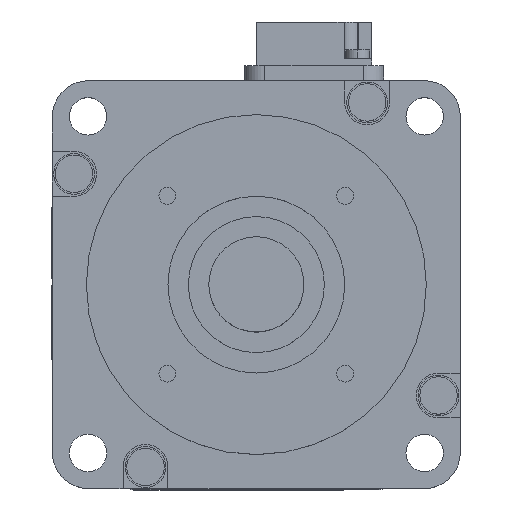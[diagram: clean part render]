
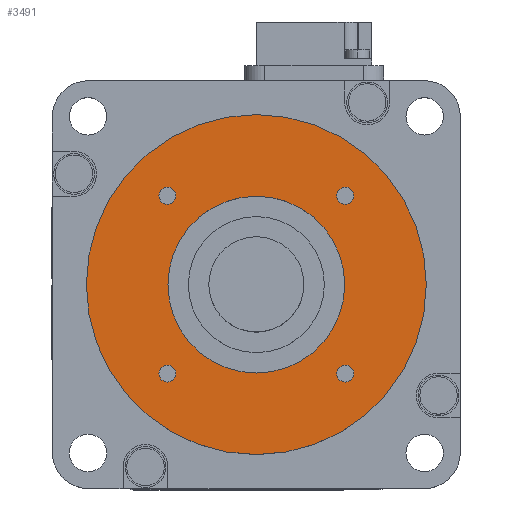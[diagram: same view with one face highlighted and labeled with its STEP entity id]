
A CAD part, top view. The second image highlights one B-rep face of the part: STEP entity #3491.
In plain terms, the highlighted planar face has unit normal (0, 0, 1).
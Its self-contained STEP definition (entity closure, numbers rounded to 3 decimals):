
#1833 = EDGE_CURVE ( 'NONE', #1842, #1834, #6844, .T. ) ;
#1834 = VERTEX_POINT ( 'NONE', #6839 ) ;
#1842 = VERTEX_POINT ( 'NONE', #6892 ) ;
#1859 = VERTEX_POINT ( 'NONE', #6915 ) ;
#1888 = VERTEX_POINT ( 'NONE', #6989 ) ;
#1899 = EDGE_CURVE ( 'NONE', #1859, #1888, #6969, .T. ) ;
#1933 = VERTEX_POINT ( 'NONE', #7084 ) ;
#1937 = EDGE_CURVE ( 'NONE', #1933, #1938, #7071, .T. ) ;
#1938 = VERTEX_POINT ( 'NONE', #7067 ) ;
#1974 = VERTEX_POINT ( 'NONE', #7139 ) ;
#1983 = EDGE_CURVE ( 'NONE', #1974, #1984, #7127, .T. ) ;
#1984 = VERTEX_POINT ( 'NONE', #7122 ) ;
#2267 = EDGE_CURVE ( 'NONE', #2268, #2269, #7752, .T. ) ;
#2268 = VERTEX_POINT ( 'NONE', #7748 ) ;
#2269 = VERTEX_POINT ( 'NONE', #7747 ) ;
#2284 = EDGE_CURVE ( 'NONE', #2285, #2286, #7781, .T. ) ;
#2285 = VERTEX_POINT ( 'NONE', #7777 ) ;
#2286 = VERTEX_POINT ( 'NONE', #7776 ) ;
#3421 = EDGE_LOOP ( 'NONE', ( #3422, #3424 ) ) ;
#3422 = ORIENTED_EDGE ( 'NONE', *, *, #3423, .F. ) ;
#3423 = EDGE_CURVE ( 'NONE', #1834, #1842, #9815, .T. ) ;
#3424 = ORIENTED_EDGE ( 'NONE', *, *, #1833, .F. ) ;
#3425 = EDGE_LOOP ( 'NONE', ( #3426, #3477 ) ) ;
#3426 = ORIENTED_EDGE ( 'NONE', *, *, #3427, .F. ) ;
#3427 = EDGE_CURVE ( 'NONE', #1888, #1859, #9810, .T. ) ;
#3464 = EDGE_CURVE ( 'NONE', #2269, #2268, #9876, .T. ) ;
#3477 = ORIENTED_EDGE ( 'NONE', *, *, #1899, .F. ) ;
#3478 = EDGE_LOOP ( 'NONE', ( #3479, #3481 ) ) ;
#3479 = ORIENTED_EDGE ( 'NONE', *, *, #3480, .F. ) ;
#3480 = EDGE_CURVE ( 'NONE', #1938, #1933, #9922, .T. ) ;
#3481 = ORIENTED_EDGE ( 'NONE', *, *, #1937, .F. ) ;
#3482 = EDGE_LOOP ( 'NONE', ( #3483, #3485 ) ) ;
#3483 = ORIENTED_EDGE ( 'NONE', *, *, #3484, .T. ) ;
#3484 = EDGE_CURVE ( 'NONE', #2286, #2285, #9917, .T. ) ;
#3485 = ORIENTED_EDGE ( 'NONE', *, *, #2284, .T. ) ;
#3486 = EDGE_LOOP ( 'NONE', ( #3487, #3488 ) ) ;
#3487 = ORIENTED_EDGE ( 'NONE', *, *, #2267, .F. ) ;
#3488 = ORIENTED_EDGE ( 'NONE', *, *, #3464, .F. ) ;
#3491 = ADVANCED_FACE ( 'NONE', ( #9912, #9911, #9910, #9909, #9908, #9907 ), #9906, .T. ) ;
#3492 = EDGE_LOOP ( 'NONE', ( #3493, #3495 ) ) ;
#3493 = ORIENTED_EDGE ( 'NONE', *, *, #3494, .F. ) ;
#3494 = EDGE_CURVE ( 'NONE', #1984, #1974, #9900, .T. ) ;
#3495 = ORIENTED_EDGE ( 'NONE', *, *, #1983, .F. ) ;
#6839 = CARTESIAN_POINT ( 'NONE',  ( -11.831, -13.081, 3. ) ) ;
#6840 = DIRECTION ( 'NONE',  ( -1., 0., 0. ) ) ;
#6841 = DIRECTION ( 'NONE',  ( 0., 0., 1. ) ) ;
#6842 = CARTESIAN_POINT ( 'NONE',  ( -13.081, -13.081, 3. ) ) ;
#6843 = AXIS2_PLACEMENT_3D ( 'NONE', #6842, #6841, #6840 ) ;
#6844 = CIRCLE ( 'NONE', #6843, 1.25 ) ;
#6892 = CARTESIAN_POINT ( 'NONE',  ( -14.331, -13.081, 3. ) ) ;
#6915 = CARTESIAN_POINT ( 'NONE',  ( -14.331, 13.081, 3. ) ) ;
#6965 = DIRECTION ( 'NONE',  ( 0., 1., 0. ) ) ;
#6966 = DIRECTION ( 'NONE',  ( 0., 0., 1. ) ) ;
#6967 = CARTESIAN_POINT ( 'NONE',  ( -13.081, 13.081, 3. ) ) ;
#6968 = AXIS2_PLACEMENT_3D ( 'NONE', #6967, #6966, #6965 ) ;
#6969 = CIRCLE ( 'NONE', #6968, 1.25 ) ;
#6989 = CARTESIAN_POINT ( 'NONE',  ( -11.831, 13.081, 3. ) ) ;
#7067 = CARTESIAN_POINT ( 'NONE',  ( 14.331, 13.081, 3. ) ) ;
#7068 = DIRECTION ( 'NONE',  ( 1., 0., 0. ) ) ;
#7069 = DIRECTION ( 'NONE',  ( 0., 0., 1. ) ) ;
#7070 = AXIS2_PLACEMENT_3D ( 'NONE', #7077, #7069, #7068 ) ;
#7071 = CIRCLE ( 'NONE', #7070, 1.25 ) ;
#7077 = CARTESIAN_POINT ( 'NONE',  ( 13.081, 13.081, 3. ) ) ;
#7084 = CARTESIAN_POINT ( 'NONE',  ( 11.831, 13.081, 3. ) ) ;
#7122 = CARTESIAN_POINT ( 'NONE',  ( 14.331, -13.081, 3. ) ) ;
#7123 = DIRECTION ( 'NONE',  ( 0., -1., 0. ) ) ;
#7124 = DIRECTION ( 'NONE',  ( 0., 0., 1. ) ) ;
#7125 = CARTESIAN_POINT ( 'NONE',  ( 13.081, -13.081, 3. ) ) ;
#7126 = AXIS2_PLACEMENT_3D ( 'NONE', #7125, #7124, #7123 ) ;
#7127 = CIRCLE ( 'NONE', #7126, 1.25 ) ;
#7139 = CARTESIAN_POINT ( 'NONE',  ( 11.831, -13.081, 3. ) ) ;
#7747 = CARTESIAN_POINT ( 'NONE',  ( 25., 0., 3. ) ) ;
#7748 = CARTESIAN_POINT ( 'NONE',  ( -25., 0., 3. ) ) ;
#7749 = DIRECTION ( 'NONE',  ( -1., 0., 0. ) ) ;
#7750 = DIRECTION ( 'NONE',  ( 0., 0., -1. ) ) ;
#7751 = AXIS2_PLACEMENT_3D ( 'NONE', #7756, #7750, #7749 ) ;
#7752 = CIRCLE ( 'NONE', #7751, 25. ) ;
#7756 = CARTESIAN_POINT ( 'NONE',  ( 0., 0., 3. ) ) ;
#7776 = CARTESIAN_POINT ( 'NONE',  ( -13., 0., 3. ) ) ;
#7777 = CARTESIAN_POINT ( 'NONE',  ( 13., 0., 3. ) ) ;
#7778 = DIRECTION ( 'NONE',  ( -1., 0., 0. ) ) ;
#7779 = DIRECTION ( 'NONE',  ( 0., 0., -1. ) ) ;
#7780 = AXIS2_PLACEMENT_3D ( 'NONE', #7786, #7779, #7778 ) ;
#7781 = CIRCLE ( 'NONE', #7780, 13. ) ;
#7786 = CARTESIAN_POINT ( 'NONE',  ( 0., 0., 3. ) ) ;
#9384 = DIRECTION ( 'NONE',  ( 0., -1., 0. ) ) ;
#9806 = DIRECTION ( 'NONE',  ( 0., 1., 0. ) ) ;
#9807 = DIRECTION ( 'NONE',  ( 0., 0., 1. ) ) ;
#9808 = CARTESIAN_POINT ( 'NONE',  ( -13.081, 13.081, 3. ) ) ;
#9809 = AXIS2_PLACEMENT_3D ( 'NONE', #9808, #9807, #9806 ) ;
#9810 = CIRCLE ( 'NONE', #9809, 1.25 ) ;
#9811 = DIRECTION ( 'NONE',  ( -1., 0., 0. ) ) ;
#9812 = DIRECTION ( 'NONE',  ( 0., 0., 1. ) ) ;
#9813 = CARTESIAN_POINT ( 'NONE',  ( -13.081, -13.081, 3. ) ) ;
#9814 = AXIS2_PLACEMENT_3D ( 'NONE', #9813, #9812, #9811 ) ;
#9815 = CIRCLE ( 'NONE', #9814, 1.25 ) ;
#9872 = DIRECTION ( 'NONE',  ( -1., 0., 0. ) ) ;
#9873 = DIRECTION ( 'NONE',  ( 0., 0., -1. ) ) ;
#9874 = CARTESIAN_POINT ( 'NONE',  ( 0., 0., 3. ) ) ;
#9875 = AXIS2_PLACEMENT_3D ( 'NONE', #9874, #9873, #9872 ) ;
#9876 = CIRCLE ( 'NONE', #9875, 25. ) ;
#9897 = DIRECTION ( 'NONE',  ( 0., 0., 1. ) ) ;
#9898 = CARTESIAN_POINT ( 'NONE',  ( 13.081, -13.081, 3. ) ) ;
#9899 = AXIS2_PLACEMENT_3D ( 'NONE', #9898, #9897, #9384 ) ;
#9900 = CIRCLE ( 'NONE', #9899, 1.25 ) ;
#9902 = DIRECTION ( 'NONE',  ( 1., 0., 0. ) ) ;
#9903 = DIRECTION ( 'NONE',  ( 0., 0., 1. ) ) ;
#9904 = CARTESIAN_POINT ( 'NONE',  ( 0., 25., 3. ) ) ;
#9905 = AXIS2_PLACEMENT_3D ( 'NONE', #9904, #9903, #9902 ) ;
#9906 = PLANE ( 'NONE',  #9905 ) ;
#9907 = FACE_OUTER_BOUND ( 'NONE', #3486, .T. ) ;
#9908 = FACE_BOUND ( 'NONE', #3482, .T. ) ;
#9909 = FACE_BOUND ( 'NONE', #3478, .T. ) ;
#9910 = FACE_BOUND ( 'NONE', #3425, .T. ) ;
#9911 = FACE_BOUND ( 'NONE', #3421, .T. ) ;
#9912 = FACE_BOUND ( 'NONE', #3492, .T. ) ;
#9913 = DIRECTION ( 'NONE',  ( -1., 0., 0. ) ) ;
#9914 = DIRECTION ( 'NONE',  ( 0., 0., -1. ) ) ;
#9915 = CARTESIAN_POINT ( 'NONE',  ( 0., 0., 3. ) ) ;
#9916 = AXIS2_PLACEMENT_3D ( 'NONE', #9915, #9914, #9913 ) ;
#9917 = CIRCLE ( 'NONE', #9916, 13. ) ;
#9918 = DIRECTION ( 'NONE',  ( 1., 0., 0. ) ) ;
#9919 = DIRECTION ( 'NONE',  ( 0., 0., 1. ) ) ;
#9920 = CARTESIAN_POINT ( 'NONE',  ( 13.081, 13.081, 3. ) ) ;
#9921 = AXIS2_PLACEMENT_3D ( 'NONE', #9920, #9919, #9918 ) ;
#9922 = CIRCLE ( 'NONE', #9921, 1.25 ) ;
